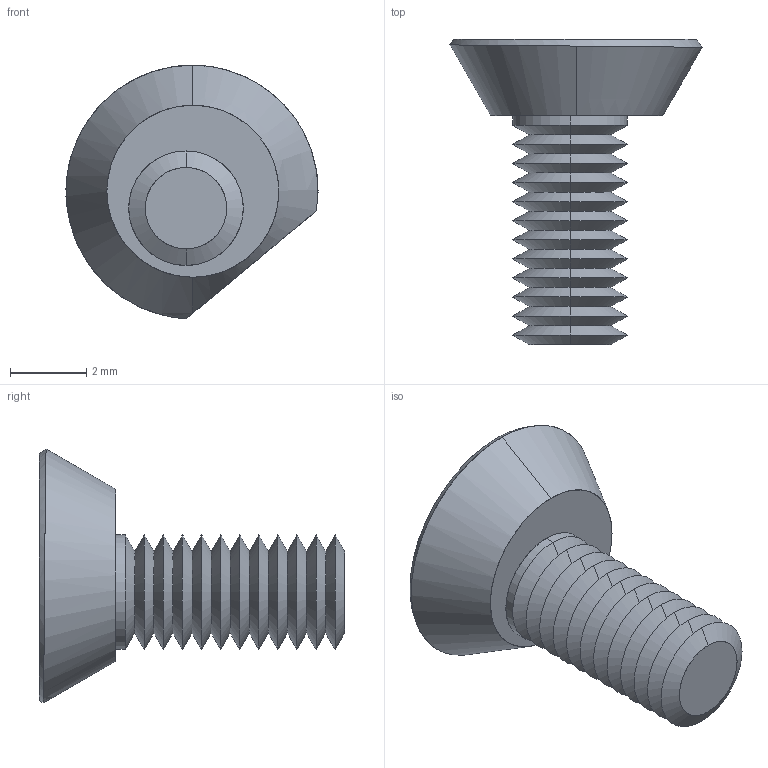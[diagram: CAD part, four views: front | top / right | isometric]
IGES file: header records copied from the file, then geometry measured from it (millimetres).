
Start section: SolidWorks IGES file using analytic representation for surfaces
Global section: file name: C:\Users\IanO\Desktop\Temp File\General\12111_v2\12111_v2_20180517_IGES\12111.W0003.igs; native system: SolidWorks 2017; preprocessor: SolidWorks 2017; author: IanO; date: 180522.151855; units: millimetre
Bounding box: 6.61 x 8 x 6.65 mm (x, y, z)
Surface area: 191.9 mm2 (no closed solid volume)
Topology: 0 solids, 0 shells, 75 faces, 542 edges, 540 vertices
Faces by surface type: revolution 58, bspline 17
